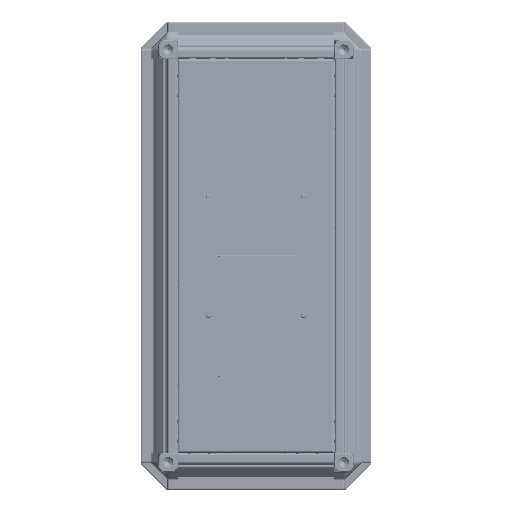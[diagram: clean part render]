
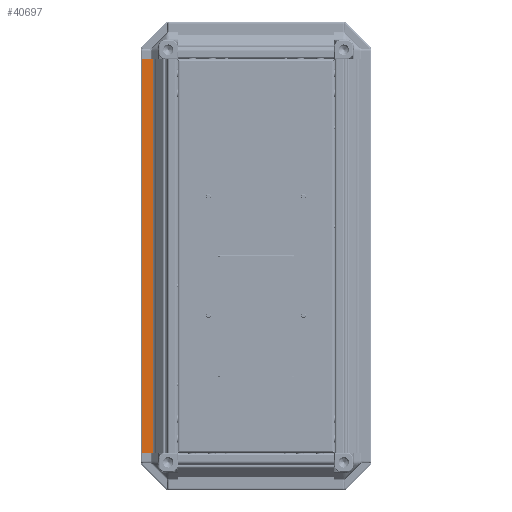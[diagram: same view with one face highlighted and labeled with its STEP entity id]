
A CAD part, front view. The second image highlights one B-rep face of the part: STEP entity #40697.
In plain terms, the highlighted planar face has unit normal (0, -1, 0) as drawn and (0.707, -0.707, 0) by its records, which use the part's own axes.
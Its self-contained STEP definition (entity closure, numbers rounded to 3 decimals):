
#144 = CARTESIAN_POINT ( 'NONE',  ( -22.386, -7.932, 498. ) ) ;
#4564 = CARTESIAN_POINT ( 'NONE',  ( -12.747, 1.707, 0. ) ) ;
#4915 = CARTESIAN_POINT ( 'NONE',  ( -22.386, -7.932, 0. ) ) ;
#4985 = LINE ( 'NONE', #144, #50953 ) ;
#8071 = ORIENTED_EDGE ( 'NONE', *, *, #22542, .F. ) ;
#8970 = ORIENTED_EDGE ( 'NONE', *, *, #31805, .T. ) ;
#9563 = VECTOR ( 'NONE', #15251, 1000. ) ;
#12311 = FACE_OUTER_BOUND ( 'NONE', #42641, .T. ) ;
#12441 = ORIENTED_EDGE ( 'NONE', *, *, #43826, .F. ) ;
#13672 = CARTESIAN_POINT ( 'NONE',  ( -22.386, -7.932, 0. ) ) ;
#13685 = VERTEX_POINT ( 'NONE', #14610 ) ;
#14610 = CARTESIAN_POINT ( 'NONE',  ( -12.747, 1.707, 498. ) ) ;
#15251 = DIRECTION ( 'NONE',  ( 0., 0., -1. ) ) ;
#18423 = DIRECTION ( 'NONE',  ( 0., 0., -1. ) ) ;
#19538 = LINE ( 'NONE', #36725, #9563 ) ;
#20350 = EDGE_CURVE ( 'NONE', #46646, #44590, #21993, .T. ) ;
#20463 = VECTOR ( 'NONE', #35963, 1000. ) ;
#21296 = VECTOR ( 'NONE', #22262, 1000. ) ;
#21993 = LINE ( 'NONE', #13672, #21296 ) ;
#22262 = DIRECTION ( 'NONE',  ( 0.707, 0.707, 0. ) ) ;
#22542 = EDGE_CURVE ( 'NONE', #13685, #44590, #19538, .T. ) ;
#27964 = LINE ( 'NONE', #53198, #20463 ) ;
#29796 = DIRECTION ( 'NONE',  ( -0.707, 0.707, 0. ) ) ;
#30080 = PLANE ( 'NONE',  #51433 ) ;
#31805 = EDGE_CURVE ( 'NONE', #47934, #46646, #4985, .T. ) ;
#35963 = DIRECTION ( 'NONE',  ( 0.707, 0.707, 0. ) ) ;
#36725 = CARTESIAN_POINT ( 'NONE',  ( -12.747, 1.707, 498. ) ) ;
#39917 = CARTESIAN_POINT ( 'NONE',  ( -22.386, -7.932, 498. ) ) ;
#40697 = ADVANCED_FACE ( 'NONE', ( #12311 ), #30080, .F. ) ;
#42641 = EDGE_LOOP ( 'NONE', ( #46557, #8071, #12441, #8970 ) ) ;
#43826 = EDGE_CURVE ( 'NONE', #47934, #13685, #27964, .T. ) ;
#44590 = VERTEX_POINT ( 'NONE', #4564 ) ;
#46557 = ORIENTED_EDGE ( 'NONE', *, *, #20350, .T. ) ;
#46646 = VERTEX_POINT ( 'NONE', #4915 ) ;
#47572 = CARTESIAN_POINT ( 'NONE',  ( -22.386, -7.932, 498. ) ) ;
#47934 = VERTEX_POINT ( 'NONE', #39917 ) ;
#50953 = VECTOR ( 'NONE', #18423, 1000. ) ;
#51433 = AXIS2_PLACEMENT_3D ( 'NONE', #47572, #29796, #56465 ) ;
#53198 = CARTESIAN_POINT ( 'NONE',  ( -22.386, -7.932, 498. ) ) ;
#56465 = DIRECTION ( 'NONE',  ( -0.707, -0.707, 0. ) ) ;
